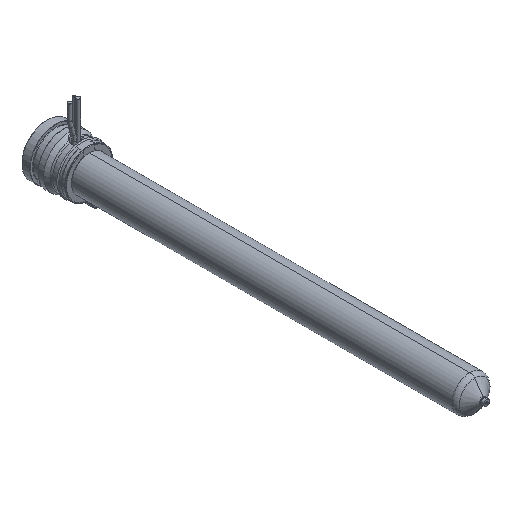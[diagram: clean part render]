
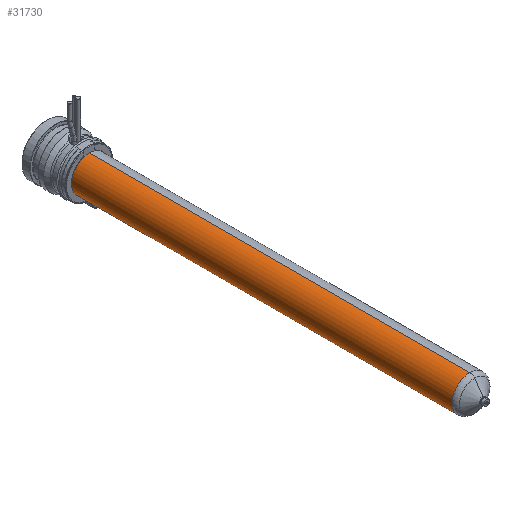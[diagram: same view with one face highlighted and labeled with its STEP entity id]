
A CAD part, isometric view. The second image highlights one B-rep face of the part: STEP entity #31730.
In plain terms, the highlighted cylindrical face has radius 9 mm (diameter 18 mm), a partial arc.
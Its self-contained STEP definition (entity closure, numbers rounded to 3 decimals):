
#31296=CARTESIAN_POINT('',(0.,-215.471,0.));
#31297=DIRECTION('',(0.,-1.,0.));
#31298=DIRECTION('',(0.,0.,1.));
#31299=AXIS2_PLACEMENT_3D('',#31296,#31297,#31298);
#31328=DIRECTION('',(0.,-1.,0.));
#31329=VECTOR('',#31328,193.471);
#31330=CARTESIAN_POINT('',(0.,-22.,9.));
#31331=LINE('',#31330,#31329);
#31343=DIRECTION('',(0.,-1.,0.));
#31344=VECTOR('',#31343,193.471);
#31345=CARTESIAN_POINT('',(0.,-22.,-9.));
#31346=LINE('',#31345,#31344);
#31350=CARTESIAN_POINT('',(0.,-22.,0.));
#31351=DIRECTION('',(0.,-1.,0.));
#31352=DIRECTION('',(0.,0.,1.));
#31353=AXIS2_PLACEMENT_3D('',#31350,#31351,#31352);
#31546=CARTESIAN_POINT('',(0.,-22.,9.));
#31547=CARTESIAN_POINT('',(0.,-215.471,9.));
#31548=VERTEX_POINT('',#31546);
#31549=VERTEX_POINT('',#31547);
#31558=CARTESIAN_POINT('',(0.,-22.,-9.));
#31559=CARTESIAN_POINT('',(0.,-215.471,-9.));
#31560=VERTEX_POINT('',#31558);
#31561=VERTEX_POINT('',#31559);
#31718=CARTESIAN_POINT('',(0.,-7.7,0.));
#31719=DIRECTION('',(0.,-1.,0.));
#31720=DIRECTION('',(0.,0.,1.));
#31721=AXIS2_PLACEMENT_3D('',#31718,#31719,#31720);
#31722=CYLINDRICAL_SURFACE('',#31721,9.);
#31723=ORIENTED_EDGE('',*,*,#31708,.T.);
#31724=ORIENTED_EDGE('',*,*,#31685,.T.);
#31725=ORIENTED_EDGE('',*,*,#31712,.F.);
#31727=ORIENTED_EDGE('',*,*,#31726,.F.);
#31728=EDGE_LOOP('',(#31723,#31724,#31725,#31727));
#31729=FACE_OUTER_BOUND('',#31728,.F.);
#31730=ADVANCED_FACE('',(#31729),#31722,.T.);
#31300=CIRCLE('',#31299,9.);
#31354=CIRCLE('',#31353,9.);
#31685=EDGE_CURVE('',#31549,#31561,#31300,.T.);
#31708=EDGE_CURVE('',#31548,#31549,#31331,.T.);
#31712=EDGE_CURVE('',#31560,#31561,#31346,.T.);
#31726=EDGE_CURVE('',#31548,#31560,#31354,.T.);
